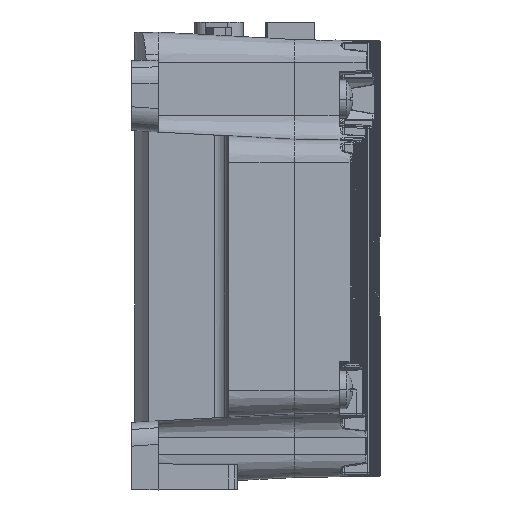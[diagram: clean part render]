
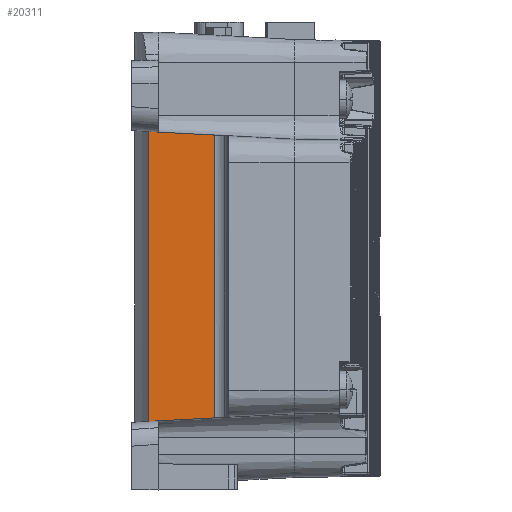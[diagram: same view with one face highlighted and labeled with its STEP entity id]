
A CAD part, left-side view. The second image highlights one B-rep face of the part: STEP entity #20311.
In plain terms, the highlighted planar face has unit normal (-1, 0.018, 0).
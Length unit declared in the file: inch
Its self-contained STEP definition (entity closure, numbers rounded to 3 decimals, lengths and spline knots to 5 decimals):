
#20311 = ADVANCED_FACE( '', ( #25324 ), #25325, .T. );
#25324 = FACE_OUTER_BOUND( '', #63657, .T. );
#25325 = PLANE( '', #63658 );
#63657 = EDGE_LOOP( '', ( #80081, #80082, #80083, #80084, #80085, #80086 ) );
#63658 = AXIS2_PLACEMENT_3D( '', #80087, #80088, #80089 );
#80081 = ORIENTED_EDGE( '', *, *, #86291, .T. );
#80082 = ORIENTED_EDGE( '', *, *, #86233, .T. );
#80083 = ORIENTED_EDGE( '', *, *, #86299, .F. );
#80084 = ORIENTED_EDGE( '', *, *, #86301, .F. );
#80085 = ORIENTED_EDGE( '', *, *, #82472, .F. );
#80086 = ORIENTED_EDGE( '', *, *, #86302, .F. );
#80087 = CARTESIAN_POINT( '', ( -2.74806, -0.09, 1.32793 ) );
#80088 = DIRECTION( '', ( -1., 0.017, 0. ) );
#80089 = DIRECTION( '', ( 0., 0., 1. ) );
#82472 = EDGE_CURVE( '', #90190, #90192, #90193, .T. );
#86233 = EDGE_CURVE( '', #96177, #96175, #96178, .T. );
#86291 = EDGE_CURVE( '', #96233, #96177, #96261, .T. );
#86299 = EDGE_CURVE( '', #96081, #96175, #96270, .F. );
#86301 = EDGE_CURVE( '', #90192, #96081, #96272, .T. );
#86302 = EDGE_CURVE( '', #96233, #90190, #96273, .T. );
#90190 = VERTEX_POINT( '', #102009 );
#90192 = VERTEX_POINT( '', #102011 );
#90193 = LINE( '', #102012, #102013 );
#96081 = VERTEX_POINT( '', #119991 );
#96175 = VERTEX_POINT( '', #120202 );
#96177 = VERTEX_POINT( '', #120204 );
#96178 = LINE( '', #120205, #120206 );
#96233 = VERTEX_POINT( '', #120374 );
#96261 = LINE( '', #120437, #120438 );
#96270 = LINE( '', #120453, #120454 );
#96272 = LINE( '', #120457, #120458 );
#96273 = LINE( '', #120459, #120460 );
#102009 = CARTESIAN_POINT( '', ( -2.75638, -0.56718, 1.30293 ) );
#102011 = CARTESIAN_POINT( '', ( -2.75638, -0.56718, -1.10428 ) );
#102012 = CARTESIAN_POINT( '', ( -2.75638, -0.56718, 0.93882 ) );
#102013 = VECTOR( '', #123460, 1. );
#119991 = CARTESIAN_POINT( '', ( -2.74806, -0.09, -1.12929 ) );
#120202 = CARTESIAN_POINT( '', ( -2.74662, -0.00793, -1.13503 ) );
#120204 = CARTESIAN_POINT( '', ( -2.74662, -0.00793, 1.33367 ) );
#120205 = CARTESIAN_POINT( '', ( -2.74662, -0.00793, 0.09932 ) );
#120206 = VECTOR( '', #127602, 1. );
#120374 = CARTESIAN_POINT( '', ( -2.74806, -0.09, 1.32793 ) );
#120437 = CARTESIAN_POINT( '', ( -2.74798, -0.08557, 1.32824 ) );
#120438 = VECTOR( '', #127672, 1. );
#120453 = CARTESIAN_POINT( '', ( -2.74946, -0.17066, -1.12365 ) );
#120454 = VECTOR( '', #127682, 1. );
#120457 = CARTESIAN_POINT( '', ( -2.75952, -0.74671, -1.09487 ) );
#120458 = VECTOR( '', #127684, 1. );
#120459 = CARTESIAN_POINT( '', ( -2.75798, -0.65839, 1.29815 ) );
#120460 = VECTOR( '', #127685, 1. );
#123460 = DIRECTION( '', ( 0., 0., -1. ) );
#127602 = DIRECTION( '', ( 0., 0., -1. ) );
#127672 = DIRECTION( '', ( 0.017, 0.997, 0.07 ) );
#127682 = DIRECTION( '', ( -0.017, -0.997, 0.07 ) );
#127684 = DIRECTION( '', ( 0.017, 0.998, -0.052 ) );
#127685 = DIRECTION( '', ( -0.017, -0.998, -0.052 ) );
